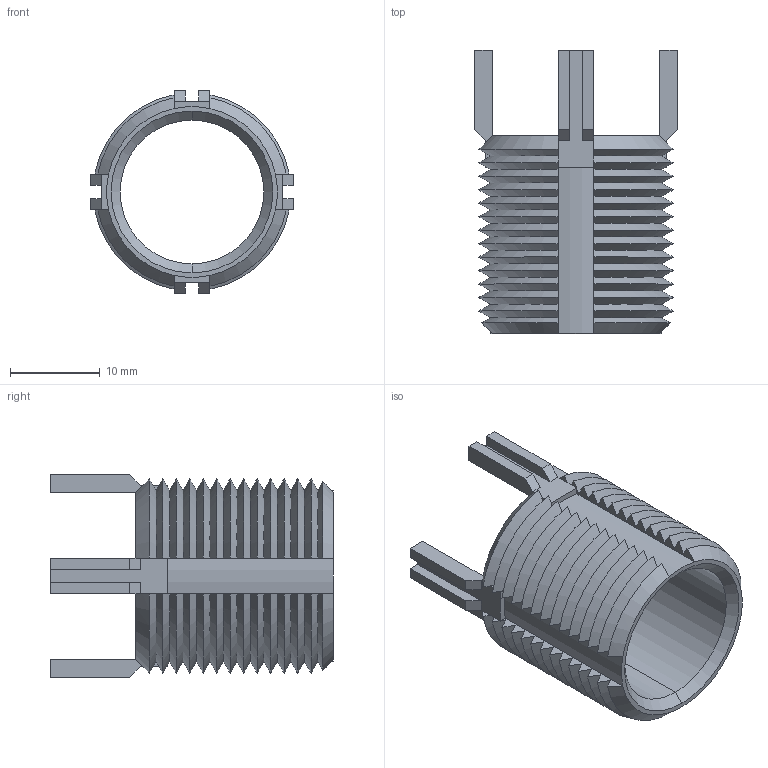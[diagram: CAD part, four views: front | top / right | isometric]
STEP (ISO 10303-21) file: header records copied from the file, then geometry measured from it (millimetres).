
FILE_DESCRIPTION (( 'STEP AP203' ), '1' );
FILE_NAME ('22002.W5710.step', '2023-03-20T19:29:32', ( '' ), ( '' ), 'SwSTEP 2.0', 'SolidWorks 2019', '' );
FILE_SCHEMA (( 'CONFIG_CONTROL_DESIGN' ));
Length unit declared in the file: millimetre
Products named in the file (1): 22002.W5710
Bounding box: 22.57 x 31.5 x 22.57 mm (x, y, z)
Volume: 2881.9 mm3; surface area: 4357.2 mm2
Topology: 1 solids, 1 shells, 212 faces, 570 edges, 360 vertices
Faces by surface type: cone 116, plane 90, cylinder 6
Entity records: 6891 total; most frequent: CARTESIAN_POINT 1935, ORIENTED_EDGE 1140, DIRECTION 864, EDGE_CURVE 570, VERTEX_POINT 360, AXIS2_PLACEMENT_3D 345, B_SPLINE_CURVE_WITH_KNOTS 264, EDGE_LOOP 214
